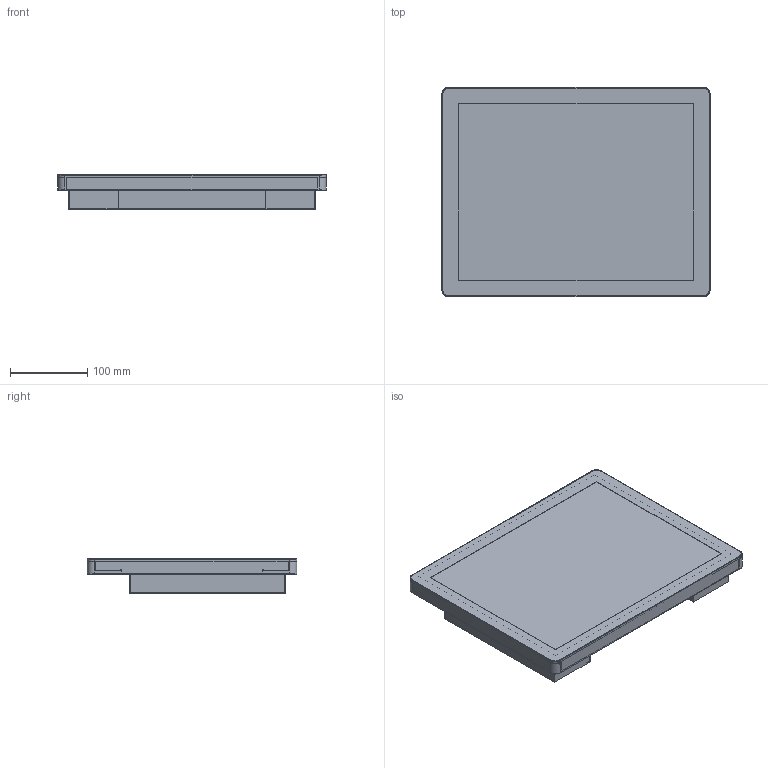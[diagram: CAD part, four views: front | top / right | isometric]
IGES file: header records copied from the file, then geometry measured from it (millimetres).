
Global section: file name: FIE150FM-P; native system: AutoCAD 2019 – 繁體中文 (Traditional Chinese),62HAutode; preprocessor: sk Translation Framework DWG producer (atf_dwg_producer); organization: unknown; date: 20210616.112139; units: millimetre
Bounding box: 348.1 x 272.1 x 45 mm (x, y, z)
Volume: 1187712.3 mm3; surface area: 1000453.1 mm2
Topology: 13 solids, 13 shells, 976 faces, 2517 edges, 1684 vertices
Faces by surface type: bspline 976
